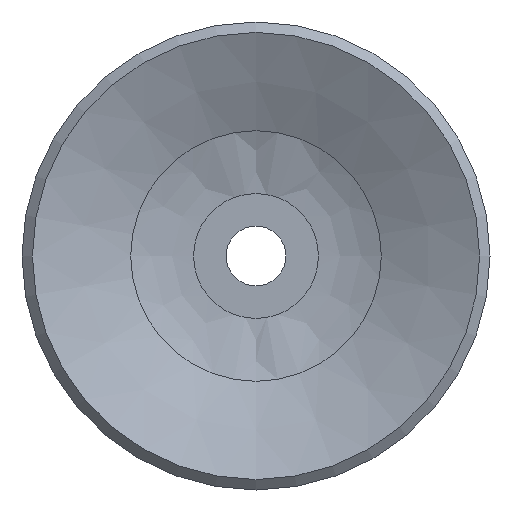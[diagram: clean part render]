
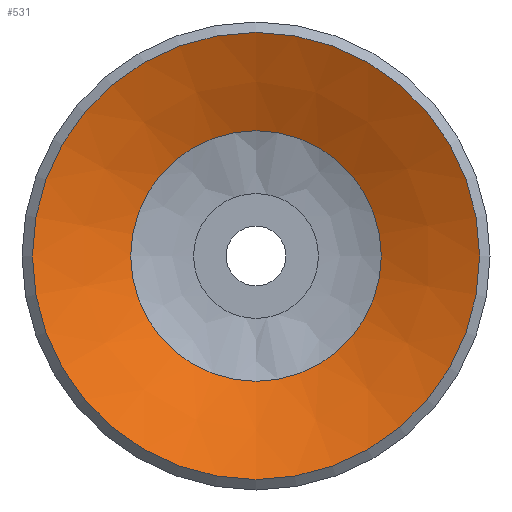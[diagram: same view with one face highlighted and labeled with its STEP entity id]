
A CAD part, front view. The second image highlights one B-rep face of the part: STEP entity #531.
In plain terms, the highlighted conical face has half-angle 65.056 degrees and reference radius 3.2 mm.
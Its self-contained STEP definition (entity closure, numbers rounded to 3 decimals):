
#531=ADVANCED_FACE('',(#753,#754),#755,.F.);
#753=FACE_BOUND('',#1032,.T.);
#754=FACE_OUTER_BOUND('',#1033,.T.);
#755=CONICAL_SURFACE('',#1034,3.2,1.135);
#1032=EDGE_LOOP('',(#1646));
#1033=EDGE_LOOP('',(#1647));
#1034=AXIS2_PLACEMENT_3D('',#1648,#1649,#1650);
#1646=ORIENTED_EDGE('',*,*,#1960,.T.);
#1647=ORIENTED_EDGE('',*,*,#1961,.T.);
#1648=CARTESIAN_POINT('',(0.0,7.896,0.0));
#1649=DIRECTION('',(-0.0,-1.0,0.));
#1650=DIRECTION('',(0.0,0.,-1.0));
#1960=EDGE_CURVE('',#2229,#2229,#2230,.T.);
#1961=EDGE_CURVE('',#2231,#2231,#2232,.T.);
#2229=VERTEX_POINT('',#2841);
#2230=CIRCLE('',#2842,4.203);
#2231=VERTEX_POINT('',#2843);
#2232=CIRCLE('',#2844,7.5);
#2841=CARTESIAN_POINT('',(0.0,7.43,-4.203));
#2842=AXIS2_PLACEMENT_3D('',#3148,#3149,#3150);
#2843=CARTESIAN_POINT('',(0.0,5.896,-7.5));
#2844=AXIS2_PLACEMENT_3D('',#3151,#3152,#3153);
#3148=CARTESIAN_POINT('',(0.0,7.43,0.0));
#3149=DIRECTION('',(0.0,1.0,0.));
#3150=DIRECTION('',(0.0,0.,-1.0));
#3151=CARTESIAN_POINT('',(0.0,5.896,0.0));
#3152=DIRECTION('',(0.0,-1.0,0.));
#3153=DIRECTION('',(0.0,0.,-1.0));
